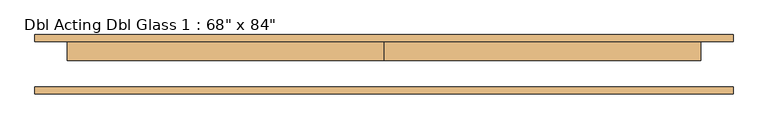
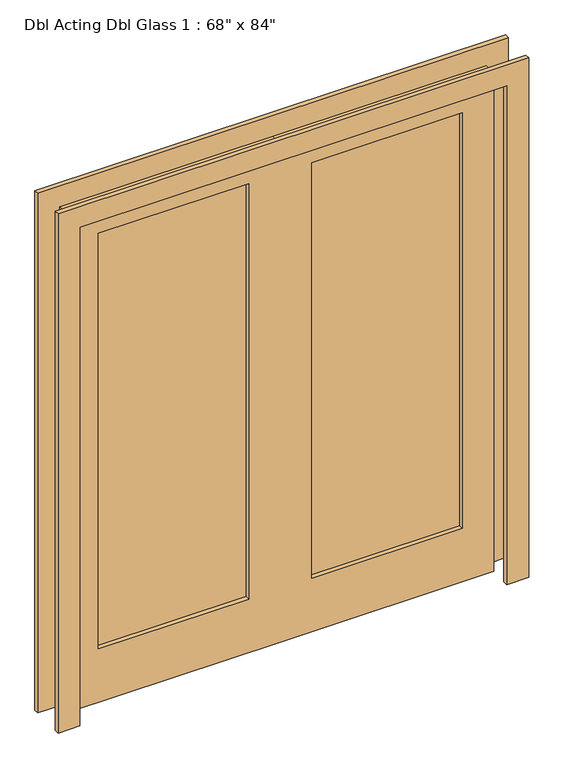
"""IFC4 building model written with IfcOpenShell, lengths in millimetres: door geometry."""

from ifc_helpers import new_model, si_unit, frame, origin, place, context, project, spatial, polyline, outline, extrude, source, transform, mapped, element, save


def door_85c6249d(model_context):
    return source(origin(), model_context, "Body", "SweptSolid", [
        extrude(outline(polyline([(127.0, 68.2625), (736.6, 68.2625), (736.6, 55.5625), (127.0, 55.5625), (127.0, 68.2625)])), frame((0.0, 0.0, 228.6), z_axis=(0.0, 0.0, 1.0), x_axis=(1.0, 0.0, 0.0)), (0.0, 0.0, 1.0), 1778.0),
        extrude(outline(polyline([(-736.6, 68.2625), (-127.0, 68.2625), (-127.0, 55.5625), (-736.6, 55.5625), (-736.6, 68.2625)])), frame((0.0, 0.0, 228.6), z_axis=(0.0, 0.0, 1.0), x_axis=(1.0, 0.0, 0.0)), (0.0, 0.0, 1.0), 1778.0),
        extrude(outline(polyline([(2133.6, 0.0), (2133.6, -863.6), (0.0, -863.6), (0.0, 0.0), (0.0, 863.6), (2133.6, 863.6), (2133.6, 0.0)]), holes=[polyline([(2006.6, 127.0), (2006.6, 736.6), (228.6, 736.6), (228.6, 127.0), (2006.6, 127.0)]), polyline([(2006.6, -127.0), (228.6, -127.0), (228.6, -736.6), (2006.6, -736.6), (2006.6, -127.0)])]), frame((0.0, 36.5125, 0.0), z_axis=(0.0, 1.0, 0.0), x_axis=(0.0, 0.0, 1.0)), (0.0, 0.0, 1.0), 50.8),
        extrude(outline(polyline([(2133.6, -863.6), (2133.6, 863.6), (0.0, 863.6), (0.0, 952.5), (2222.5, 952.5), (2222.5, -952.5), (0.0, -952.5), (0.0, -863.6), (2133.6, -863.6)])), frame((0.0, -55.5625, 0.0), z_axis=(0.0, 1.0, 0.0), x_axis=(0.0, 0.0, 1.0)), (0.0, 0.0, 1.0), 19.05),
        extrude(outline(polyline([(2133.6, -863.6), (2133.6, 863.6), (0.0, 863.6), (0.0, 952.5), (2222.5, 952.5), (2222.5, -952.5), (0.0, -952.5), (0.0, -863.6), (2133.6, -863.6)])), frame((0.0, 87.3125, 0.0), z_axis=(0.0, 1.0, 0.0), x_axis=(0.0, 0.0, 1.0)), (0.0, 0.0, 1.0), 19.05),
    ])


if __name__ == "__main__":
    model = new_model("IFC4")
    model_context = context("Model", 3, world=origin())
    ifc_project = project(units=[si_unit("LENGTHUNIT", "METRE", prefix="MILLI")], contexts=[model_context])
    site = spatial("IfcSite", under=ifc_project)
    building = spatial("IfcBuilding", under=site)
    placement = place(None, origin())
    door_shape = door_85c6249d(model_context)
    element("IfcDoor", 1, ObjectType="Dbl Acting Dbl Glass 1 : 68\" x 84\"", at=placement, inside=building, context=model_context, shape_type="MappedRepresentation", body=[
        mapped(door_shape, transform((0.0, 0.0, 0.0), x_axis=(1.0, 0.0, 0.0), y_axis=(0.0, 1.0, 0.0), z_axis=(0.0, 0.0, 1.0))),
    ])
    save(model, "model.ifc")
